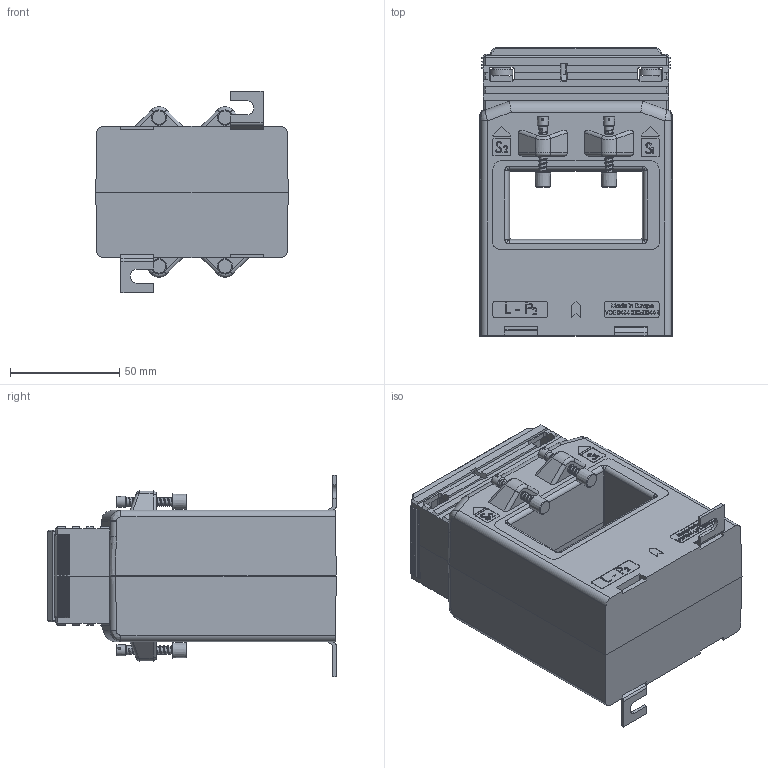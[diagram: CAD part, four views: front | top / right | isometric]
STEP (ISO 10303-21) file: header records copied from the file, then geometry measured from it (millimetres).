
FILE_DESCRIPTION(/* description */ (''),/* implementation_level */ '2;1');
FILE_NAME(/* name */ 'ASK63.6-.stp',/* time_stamp */ '2024-03-11T10:53:29+01:00',/* author */ ('JDI'),/* organization */ (''),/* preprocessor_version */ 'ST-DEVELOPER v19.2',/* originating_system */ 'Autodesk Inventor 2023',/* authorisation */ '');
FILE_SCHEMA (('AUTOMOTIVE_DESIGN { 1 0 10303 214 3 1 1 }'));
Products named in the file (1): 103311
Bounding box: 88 x 132 x 92 mm (x, y, z)
Volume: 518769.3 mm3; surface area: 94554.7 mm2
Topology: 5 solids, 7 shells, 1926 faces, 5135 edges, 3302 vertices
Faces by surface type: plane 1244, bspline 348, cylinder 279, cone 39, sphere 8, torus 8
Full cylindrical faces by diameter (mm): 3 x60, 3.4 x8, 3.8 x6, 4 x31, 4.1 x4, 4.4 x4, 5 x6, 10 x4
Entity records: 89798 total; most frequent: CARTESIAN_POINT 42556, ORIENTED_EDGE 10258, DIRECTION 7921, EDGE_CURVE 5129, LINE 3595, VECTOR 3595, VERTEX_POINT 3300, AXIS2_PLACEMENT_3D 2163
